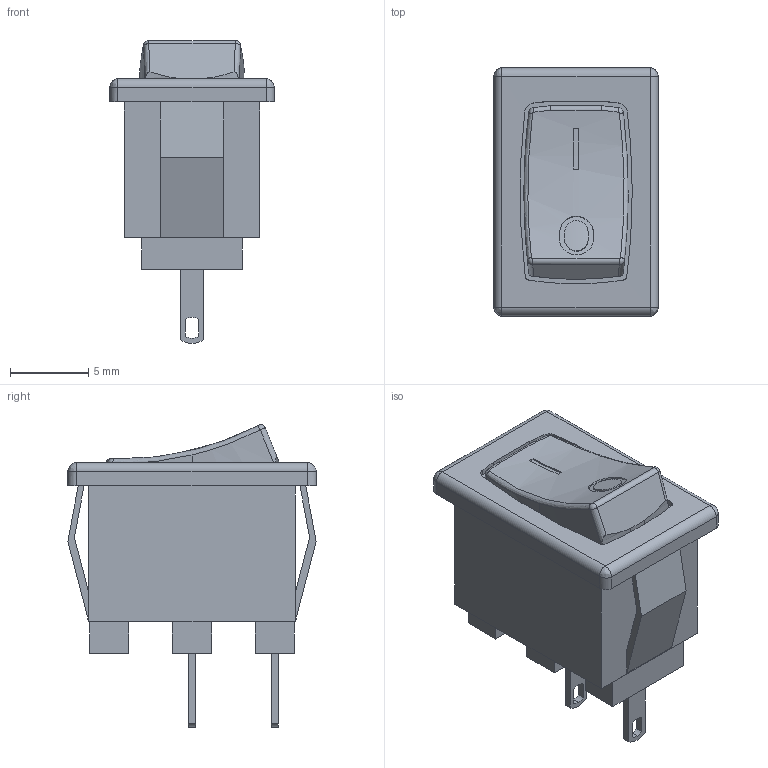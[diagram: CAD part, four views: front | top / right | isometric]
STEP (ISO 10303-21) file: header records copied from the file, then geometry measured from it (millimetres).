
FILE_DESCRIPTION(/* description */ ('STEP AP242 Edition 2','CAx-IF Rec.Pracs.---Representation and Presentation of Product Manufacturing Information (PMI)---4.0---2014-10-13','CAx-IF Rec.Pracs.---3D Tessellated Geometry---0.4---2014-09-14','2;1','CAx-IF Rec.Pracs.---User Defined Attributes---1.5---2016-08-15'),/* implementation_level */ '2;1');
FILE_NAME(/* name */ 'Assembly 1 - Part 1',/* time_stamp */ '2026-11-02T12:33:13Z',/* author */ (''),/* organization */ (''),/* preprocessor_version */ 'ST-DEVELOPER v20',/* originating_system */ 'ONSHAPE BY PTC INC, 1.223',/* authorisation */ ' ');
FILE_SCHEMA (('AP242_MANAGED_MODEL_BASED_3D_ENGINEERING_MIM_LF { 1 0 10303 442 3 1 4 }'));
Length unit declared in the file: millimetre
Products named in the file (1): Part 1
Bounding box: 10.47 x 15.84 x 19.29 mm (x, y, z)
Volume: 1423.4 mm3; surface area: 1097 mm2
Topology: 1 solids, 1 shells, 128 faces, 329 edges, 210 vertices
Faces by surface type: plane 60, cylinder 48, bspline 14, torus 4, cone 2
Entity records: 4377 total; most frequent: CARTESIAN_POINT 1306, ORIENTED_EDGE 650, DIRECTION 499, EDGE_CURVE 325, VERTEX_POINT 210, AXIS2_PLACEMENT_3D 176, LINE 147, VECTOR 147
